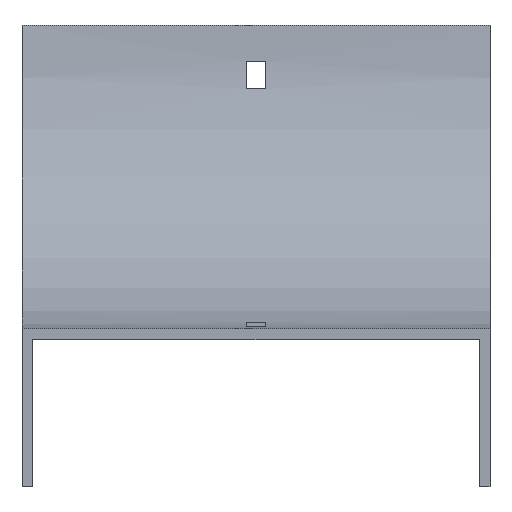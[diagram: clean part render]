
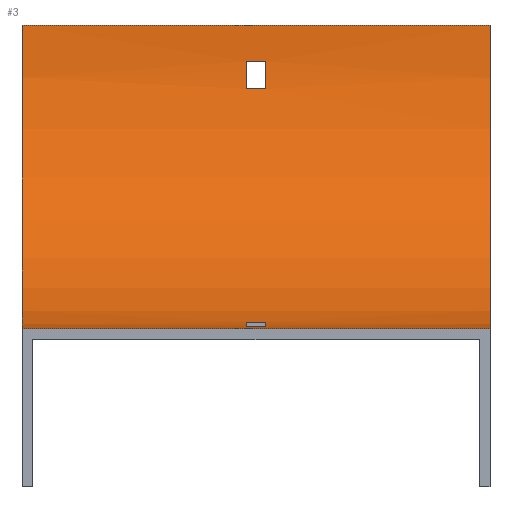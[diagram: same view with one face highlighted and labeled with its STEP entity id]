
A CAD part, front view. The second image highlights one B-rep face of the part: STEP entity #3.
In plain terms, the highlighted cylindrical face has radius 100 mm (diameter 200 mm), a partial arc.
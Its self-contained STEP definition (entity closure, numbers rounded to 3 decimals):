
#3 = ADVANCED_FACE ( 'NONE', ( #519, #512, #251 ), #602, .F. ) ;
#4 = AXIS2_PLACEMENT_3D ( 'NONE', #930, #599, #858 ) ;
#29 = DIRECTION ( 'NONE',  ( -1., 0., 0. ) ) ;
#40 = ORIENTED_EDGE ( 'NONE', *, *, #277, .F. ) ;
#45 = LINE ( 'NONE', #370, #403 ) ;
#59 = CARTESIAN_POINT ( 'NONE',  ( 3.25, -2.23, -21. ) ) ;
#65 = CARTESIAN_POINT ( 'NONE',  ( -3.25, -2.23, -21. ) ) ;
#67 = VECTOR ( 'NONE', #29, 1000. ) ;
#80 = DIRECTION ( 'NONE',  ( -1., 0., 0. ) ) ;
#82 = CARTESIAN_POINT ( 'NONE',  ( 3.25, -100., 0. ) ) ;
#84 = DIRECTION ( 'NONE',  ( 0., 0., 1. ) ) ;
#89 = CARTESIAN_POINT ( 'NONE',  ( 77., -88., -99.277 ) ) ;
#118 = LINE ( 'NONE', #125, #67 ) ;
#125 = CARTESIAN_POINT ( 'NONE',  ( 77., 0., 0. ) ) ;
#133 = CARTESIAN_POINT ( 'NONE',  ( 3.25, -79., -97.77 ) ) ;
#138 = EDGE_CURVE ( 'NONE', #183, #463, #813, .T. ) ;
#141 = VERTEX_POINT ( 'NONE', #534 ) ;
#142 = CIRCLE ( 'NONE', #784, 100. ) ;
#144 = ORIENTED_EDGE ( 'NONE', *, *, #439, .T. ) ;
#160 = EDGE_CURVE ( 'NONE', #1029, #1042, #852, .T. ) ;
#178 = CARTESIAN_POINT ( 'NONE',  ( 77., -100., 0. ) ) ;
#183 = VERTEX_POINT ( 'NONE', #335 ) ;
#200 = ORIENTED_EDGE ( 'NONE', *, *, #454, .T. ) ;
#210 = ORIENTED_EDGE ( 'NONE', *, *, #624, .T. ) ;
#211 = VECTOR ( 'NONE', #758, 1000. ) ;
#231 = DIRECTION ( 'NONE',  ( 1., 0., 0. ) ) ;
#235 = AXIS2_PLACEMENT_3D ( 'NONE', #587, #417, #517 ) ;
#248 = DIRECTION ( 'NONE',  ( 1., 0., 0. ) ) ;
#249 = EDGE_CURVE ( 'NONE', #183, #421, #118, .T. ) ;
#251 = FACE_BOUND ( 'NONE', #711, .T. ) ;
#253 = CARTESIAN_POINT ( 'NONE',  ( -3.25, -88., -99.277 ) ) ;
#277 = EDGE_CURVE ( 'NONE', #648, #788, #713, .T. ) ;
#283 = DIRECTION ( 'NONE',  ( -1., 0., 0. ) ) ;
#286 = ORIENTED_EDGE ( 'NONE', *, *, #160, .T. ) ;
#297 = DIRECTION ( 'NONE',  ( -1., 0., 0. ) ) ;
#304 = EDGE_CURVE ( 'NONE', #580, #648, #824, .T. ) ;
#306 = CARTESIAN_POINT ( 'NONE',  ( 3.25, -100., 0. ) ) ;
#320 = DIRECTION ( 'NONE',  ( 0., -1., 0. ) ) ;
#335 = CARTESIAN_POINT ( 'NONE',  ( 77., 0., 0. ) ) ;
#354 = ORIENTED_EDGE ( 'NONE', *, *, #797, .F. ) ;
#370 = CARTESIAN_POINT ( 'NONE',  ( 77., -0.723, -12. ) ) ;
#377 = CARTESIAN_POINT ( 'NONE',  ( -77., -100., -100. ) ) ;
#393 = CARTESIAN_POINT ( 'NONE',  ( 77., -79., -97.77 ) ) ;
#403 = VECTOR ( 'NONE', #231, 1000. ) ;
#413 = ORIENTED_EDGE ( 'NONE', *, *, #249, .T. ) ;
#414 = ORIENTED_EDGE ( 'NONE', *, *, #816, .T. ) ;
#417 = DIRECTION ( 'NONE',  ( -1., 0., 0. ) ) ;
#421 = VERTEX_POINT ( 'NONE', #757 ) ;
#423 = CARTESIAN_POINT ( 'NONE',  ( 77., -100., -100. ) ) ;
#430 = CARTESIAN_POINT ( 'NONE',  ( -3.25, -0.723, -12. ) ) ;
#431 = DIRECTION ( 'NONE',  ( -1., 0., 0. ) ) ;
#433 = EDGE_LOOP ( 'NONE', ( #200, #662, #901, #413 ) ) ;
#439 = EDGE_CURVE ( 'NONE', #1042, #558, #514, .T. ) ;
#444 = VECTOR ( 'NONE', #909, 1000. ) ;
#450 = AXIS2_PLACEMENT_3D ( 'NONE', #596, #80, #84 ) ;
#454 = EDGE_CURVE ( 'NONE', #421, #963, #678, .T. ) ;
#463 = VERTEX_POINT ( 'NONE', #423 ) ;
#512 = FACE_BOUND ( 'NONE', #576, .T. ) ;
#514 = CIRCLE ( 'NONE', #4, 100. ) ;
#517 = DIRECTION ( 'NONE',  ( 0., 0., 1. ) ) ;
#519 = FACE_OUTER_BOUND ( 'NONE', #433, .T. ) ;
#524 = EDGE_CURVE ( 'NONE', #141, #580, #933, .T. ) ;
#533 = VECTOR ( 'NONE', #431, 1000. ) ;
#534 = CARTESIAN_POINT ( 'NONE',  ( 3.25, -88., -99.277 ) ) ;
#544 = ORIENTED_EDGE ( 'NONE', *, *, #304, .F. ) ;
#558 = VERTEX_POINT ( 'NONE', #430 ) ;
#576 = EDGE_LOOP ( 'NONE', ( #286, #144, #210, #414 ) ) ;
#579 = ORIENTED_EDGE ( 'NONE', *, *, #524, .F. ) ;
#580 = VERTEX_POINT ( 'NONE', #133 ) ;
#587 = CARTESIAN_POINT ( 'NONE',  ( -77., -100., 0. ) ) ;
#596 = CARTESIAN_POINT ( 'NONE',  ( 77., -100., 0. ) ) ;
#599 = DIRECTION ( 'NONE',  ( 1., 0., 0. ) ) ;
#602 = CYLINDRICAL_SURFACE ( 'NONE', #450, 100. ) ;
#605 = EDGE_CURVE ( 'NONE', #463, #963, #834, .T. ) ;
#623 = LINE ( 'NONE', #89, #801 ) ;
#624 = EDGE_CURVE ( 'NONE', #558, #905, #45, .T. ) ;
#627 = DIRECTION ( 'NONE',  ( -1., 0., 0. ) ) ;
#631 = CARTESIAN_POINT ( 'NONE',  ( 77., -100., -100. ) ) ;
#637 = DIRECTION ( 'NONE',  ( 0., 0., 1. ) ) ;
#648 = VERTEX_POINT ( 'NONE', #749 ) ;
#651 = DIRECTION ( 'NONE',  ( 0., 1., 0. ) ) ;
#662 = ORIENTED_EDGE ( 'NONE', *, *, #605, .F. ) ;
#678 = CIRCLE ( 'NONE', #235, 100. ) ;
#681 = CARTESIAN_POINT ( 'NONE',  ( -3.25, -100., 0. ) ) ;
#687 = CARTESIAN_POINT ( 'NONE',  ( 77., -2.23, -21. ) ) ;
#691 = DIRECTION ( 'NONE',  ( 1., 0., 0. ) ) ;
#704 = DIRECTION ( 'NONE',  ( 0., 0., -1. ) ) ;
#711 = EDGE_LOOP ( 'NONE', ( #40, #544, #579, #354 ) ) ;
#713 = CIRCLE ( 'NONE', #894, 100. ) ;
#749 = CARTESIAN_POINT ( 'NONE',  ( -3.25, -79., -97.77 ) ) ;
#757 = CARTESIAN_POINT ( 'NONE',  ( -77., 0., 0. ) ) ;
#758 = DIRECTION ( 'NONE',  ( -1., 0., 0. ) ) ;
#784 = AXIS2_PLACEMENT_3D ( 'NONE', #82, #627, #704 ) ;
#788 = VERTEX_POINT ( 'NONE', #253 ) ;
#797 = EDGE_CURVE ( 'NONE', #788, #141, #623, .T. ) ;
#801 = VECTOR ( 'NONE', #691, 1000. ) ;
#813 = CIRCLE ( 'NONE', #913, 100. ) ;
#816 = EDGE_CURVE ( 'NONE', #905, #1029, #142, .T. ) ;
#824 = LINE ( 'NONE', #393, #211 ) ;
#834 = LINE ( 'NONE', #631, #444 ) ;
#852 = LINE ( 'NONE', #687, #533 ) ;
#858 = DIRECTION ( 'NONE',  ( 0., 0., 1. ) ) ;
#894 = AXIS2_PLACEMENT_3D ( 'NONE', #681, #297, #651 ) ;
#901 = ORIENTED_EDGE ( 'NONE', *, *, #138, .F. ) ;
#905 = VERTEX_POINT ( 'NONE', #1005 ) ;
#909 = DIRECTION ( 'NONE',  ( -1., 0., 0. ) ) ;
#913 = AXIS2_PLACEMENT_3D ( 'NONE', #178, #283, #637 ) ;
#930 = CARTESIAN_POINT ( 'NONE',  ( -3.25, -100., 0. ) ) ;
#933 = CIRCLE ( 'NONE', #1030, 100. ) ;
#963 = VERTEX_POINT ( 'NONE', #377 ) ;
#1005 = CARTESIAN_POINT ( 'NONE',  ( 3.25, -0.723, -12. ) ) ;
#1029 = VERTEX_POINT ( 'NONE', #59 ) ;
#1030 = AXIS2_PLACEMENT_3D ( 'NONE', #306, #248, #320 ) ;
#1042 = VERTEX_POINT ( 'NONE', #65 ) ;
